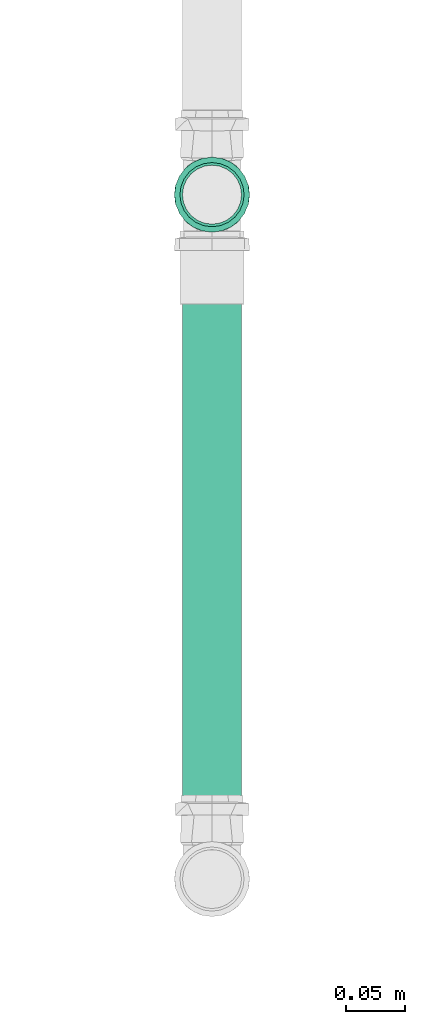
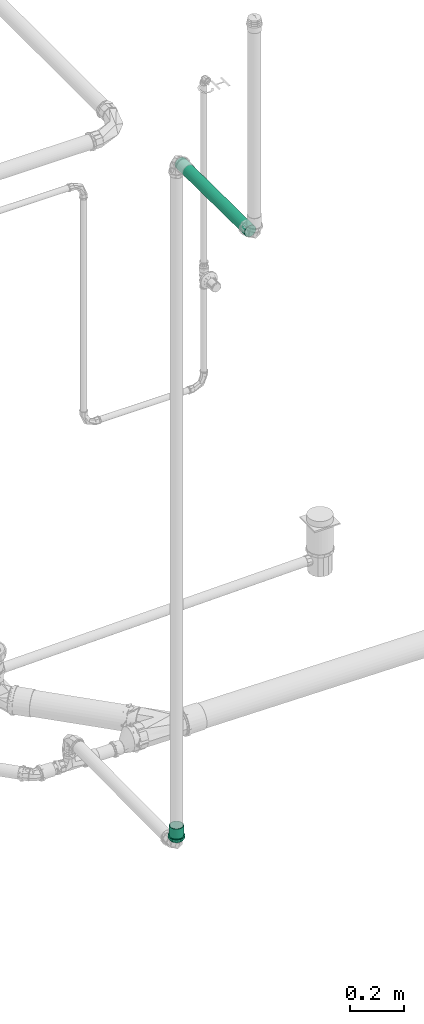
# One storey, part 277 of 589: 1 flow fitting, 1 flow segment.
"""IFC2X3 building model written with IfcOpenShell, lengths in millimetres."""

from ifc_helpers import new_model, entity, si_unit, converted_unit, derived_unit, direction, frame, frame_2d, origin, place, context, subcontext, project, spatial, circle, extrude, faceted_brep, source, transform, mapped, material, type_object, type_shapes, element, save


model = new_model("IFC2X3")

# Units and contexts
model_context = context("Model", 3, precision=0.01, world=origin(), true_north=direction((6.123031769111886e-17, 1.0)))
body_context = subcontext(model_context, "Body", "Model", "MODEL_VIEW")
ifc_project = project(units=[si_unit("LENGTHUNIT", "METRE", prefix="MILLI"), si_unit("AREAUNIT", "SQUARE_METRE"), si_unit("VOLUMEUNIT", "CUBIC_METRE"), converted_unit("PLANEANGLEUNIT", "DEGREE", entity("IfcRatioMeasure", 0.017453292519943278), si_unit("PLANEANGLEUNIT", "RADIAN"), dimensions=[0, 0, 0, 0, 0, 0, 0]), si_unit("MASSUNIT", "GRAM", prefix="KILO"), derived_unit("MASSDENSITYUNIT", [(si_unit("MASSUNIT", "GRAM", prefix="KILO"), 1), (si_unit("LENGTHUNIT", "METRE"), -3)]), derived_unit("IONCONCENTRATIONUNIT", [(si_unit("MASSUNIT", "GRAM", prefix="KILO"), 1), (si_unit("LENGTHUNIT", "METRE"), -3)]), derived_unit("MOMENTOFINERTIAUNIT", [(si_unit("LENGTHUNIT", "METRE"), 4)]), si_unit("TIMEUNIT", "SECOND"), si_unit("FREQUENCYUNIT", "HERTZ"), si_unit("THERMODYNAMICTEMPERATUREUNIT", "DEGREE_CELSIUS"), derived_unit("THERMALTRANSMITTANCEUNIT", [(si_unit("MASSUNIT", "GRAM", prefix="KILO"), 1), (si_unit("THERMODYNAMICTEMPERATUREUNIT", "KELVIN"), -1), (si_unit("TIMEUNIT", "SECOND"), -3)]), derived_unit("THERMALCONDUCTANCEUNIT", [(si_unit("MASSUNIT", "GRAM", prefix="KILO"), 1), (si_unit("THERMODYNAMICTEMPERATUREUNIT", "KELVIN"), -1), (si_unit("TIMEUNIT", "SECOND"), -3), (si_unit("LENGTHUNIT", "METRE"), 1)]), derived_unit("VOLUMETRICFLOWRATEUNIT", [(si_unit("LENGTHUNIT", "METRE"), 3), (si_unit("TIMEUNIT", "SECOND"), -1)]), derived_unit("MASSFLOWRATEUNIT", [(si_unit("MASSUNIT", "GRAM", prefix="KILO"), 1), (si_unit("TIMEUNIT", "SECOND"), -1)]), derived_unit("ROTATIONALFREQUENCYUNIT", [(si_unit("TIMEUNIT", "SECOND"), -1)]), si_unit("ELECTRICCURRENTUNIT", "AMPERE"), si_unit("ELECTRICVOLTAGEUNIT", "VOLT"), si_unit("POWERUNIT", "WATT"), si_unit("FORCEUNIT", "NEWTON", prefix="KILO"), si_unit("ILLUMINANCEUNIT", "LUX"), si_unit("LUMINOUSFLUXUNIT", "LUMEN"), si_unit("LUMINOUSINTENSITYUNIT", "CANDELA"), derived_unit("USERDEFINED", [(si_unit("MASSUNIT", "GRAM", prefix="KILO"), -1), (si_unit("LENGTHUNIT", "METRE"), -2), (si_unit("TIMEUNIT", "SECOND"), 3), (si_unit("LUMINOUSFLUXUNIT", "LUMEN"), 1)]), derived_unit("USERDEFINED", [(si_unit("MASSUNIT", "GRAM", prefix="KILO"), 1), (si_unit("TIMEUNIT", "SECOND"), -3), (si_unit("LENGTHUNIT", "METRE"), 3), (si_unit("ELECTRICCURRENTUNIT", "AMPERE"), -2)]), derived_unit("SOUNDPOWERUNIT", [(si_unit("MASSUNIT", "GRAM", prefix="KILO"), 1), (si_unit("TIMEUNIT", "SECOND"), -3), (si_unit("LENGTHUNIT", "METRE"), 2)]), derived_unit("SOUNDPRESSUREUNIT", [(si_unit("MASSUNIT", "GRAM", prefix="KILO"), 1), (si_unit("LENGTHUNIT", "METRE"), -1), (si_unit("TIMEUNIT", "SECOND"), -2)]), derived_unit("LINEARVELOCITYUNIT", [(si_unit("LENGTHUNIT", "METRE"), 1), (si_unit("TIMEUNIT", "SECOND"), -1)]), si_unit("PRESSUREUNIT", "PASCAL"), derived_unit("USERDEFINED", [(si_unit("MASSUNIT", "GRAM", prefix="KILO"), 1), (si_unit("LENGTHUNIT", "METRE"), -2), (si_unit("TIMEUNIT", "SECOND"), -2)]), derived_unit("LINEARFORCEUNIT", [(si_unit("MASSUNIT", "GRAM", prefix="KILO"), 1), (si_unit("TIMEUNIT", "SECOND"), -2)]), derived_unit("PLANARFORCEUNIT", [(si_unit("MASSUNIT", "GRAM", prefix="KILO"), 1), (si_unit("LENGTHUNIT", "METRE"), -1), (si_unit("TIMEUNIT", "SECOND"), -2)]), derived_unit("SPECIFICHEATCAPACITYUNIT", [(si_unit("THERMODYNAMICTEMPERATUREUNIT", "KELVIN"), -1), (si_unit("LENGTHUNIT", "METRE"), 2), (si_unit("TIMEUNIT", "SECOND"), -2)]), derived_unit("HEATINGVALUEUNIT", [(si_unit("LENGTHUNIT", "METRE"), 2), (si_unit("TIMEUNIT", "SECOND"), -2)]), derived_unit("VAPORPERMEABILITYUNIT", [(si_unit("LENGTHUNIT", "METRE"), -1), (si_unit("TIMEUNIT", "SECOND"), 1)]), derived_unit("DYNAMICVISCOSITYUNIT", [(si_unit("MASSUNIT", "GRAM", prefix="KILO"), 1), (si_unit("TIMEUNIT", "SECOND"), -1), (si_unit("LENGTHUNIT", "METRE"), -1)]), derived_unit("THERMALEXPANSIONCOEFFICIENTUNIT", [(si_unit("THERMODYNAMICTEMPERATUREUNIT", "KELVIN"), -1)]), derived_unit("MODULUSOFELASTICITYUNIT", [(si_unit("MASSUNIT", "GRAM", prefix="KILO"), 1), (si_unit("LENGTHUNIT", "METRE"), -1), (si_unit("TIMEUNIT", "SECOND"), -2)]), derived_unit("ISOTHERMALMOISTURECAPACITYUNIT", [(si_unit("LENGTHUNIT", "METRE"), 3), (si_unit("MASSUNIT", "GRAM", prefix="KILO"), -1)]), derived_unit("MOISTUREDIFFUSIVITYUNIT", [(si_unit("TIMEUNIT", "SECOND"), -1), (si_unit("LENGTHUNIT", "METRE"), 2)])], contexts=[model_context])

# Site, building, storey
site_placement = place(None, origin())
site = spatial("IfcSite", under=ifc_project, at=site_placement, Name="Default", CompositionType="ELEMENT")
building_placement = place(site_placement, origin())
building = spatial("IfcBuilding", under=site, at=building_placement, CompositionType="ELEMENT")
storey_placement = place(building_placement, frame((0.0, 0.0, 100.0)))
storey = spatial("IfcBuildingStorey", under=building, at=storey_placement, Name="TÉRREO", CompositionType="ELEMENT", Elevation=100.0)

# Flow segment
pipe_segment_type = type_object("IfcPipeSegmentType", Name="Tipos de tubos:PVC Esgoto Série Normal", PredefinedType="NOTDEFINED")
flow_segment_placement = place(storey_placement, origin())
element("IfcFlowSegment", 1, at=flow_segment_placement, inside=storey, type_object=pipe_segment_type, Name="Tipos de tubos:PVC Esgoto Série Normal", ObjectType="Tipos de tubos:PVC Esgoto Série Normal", context=body_context, shape_type="SweptSolid", body=[
    extrude(circle(Radius=25.0, at=frame_2d((0.0, 1.0828129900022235e-14), x_axis=(1.0, 0.0))), frame((6108.335906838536, 5868.367382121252, 2992.3093975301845), z_axis=(0.0, -0.9999500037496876, 0.00999950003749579), x_axis=(-1.0, 0.0, 0.0)), (0.0, 0.0, 1.0), 518.1463993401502),
])

# Flow fitting
ifc_material = material(Name="PVC Série Normal")
pipe_fitting_type = type_object("IfcPipeFittingType", Name="PVC Esgoto_Luva Simples para Conexão_Rodrigo MEP:Standard", PredefinedType="NOTDEFINED", material=ifc_material)
shared_shape = source(origin(), body_context, "Body", "Brep", [
    faceted_brep([(16.599999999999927, 15.900000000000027, -27.53960784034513), (16.599999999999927, 22.485995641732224, -22.485995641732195), (16.599999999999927, 13.599999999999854, -23.555890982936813), (16.599999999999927, 7.039878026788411, -26.273182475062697), (16.599999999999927, 8.2304456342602, -30.71644127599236), (16.599999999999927, 19.233304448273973, -19.233304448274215), (16.599999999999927, 27.539607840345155, -15.899999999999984), (16.599999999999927, 23.55589098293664, -13.600000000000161), (16.599999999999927, 26.273182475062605, -7.03987802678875), (16.599999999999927, 30.716441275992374, -8.230445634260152), (16.599999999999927, 27.2, 0.0), (16.599999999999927, 31.8, 0.0), (16.599999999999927, 26.273182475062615, 7.0398780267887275), (16.599999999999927, 30.71644127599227, 8.23044563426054), (16.599999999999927, 23.555890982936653, 13.60000000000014), (16.599999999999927, 27.539607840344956, 15.900000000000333), (16.599999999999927, 19.233304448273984, 19.2333044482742), (16.599999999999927, 22.485995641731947, 22.48599564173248), (16.599999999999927, 13.599999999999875, 23.555890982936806), (16.599999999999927, 15.899999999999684, 27.53960784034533), (16.599999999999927, 7.039878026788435, 26.27318247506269), (16.599999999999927, 8.230445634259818, 30.716441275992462), (16.599999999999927, 0.0, 27.2), (16.599999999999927, 0.0, 31.8), (16.599999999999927, -7.039878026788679, 26.273182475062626), (16.599999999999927, -8.230445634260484, 30.716441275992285), (16.599999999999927, -13.600000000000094, 23.555890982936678), (16.599999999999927, -15.900000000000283, 27.53960784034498), (16.599999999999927, -19.23330444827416, 19.233304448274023), (16.599999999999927, -22.485995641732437, 22.48599564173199), (16.599999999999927, -23.55589098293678, 13.59999999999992), (16.599999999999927, -27.539607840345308, 15.899999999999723), (16.599999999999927, -30.71644127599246, 8.230445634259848), (16.599999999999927, -26.273182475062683, 7.039878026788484), (16.599999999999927, -31.8, 0.0), (16.599999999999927, -27.2, 0.0), (16.599999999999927, -30.71644127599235, -8.23044563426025), (16.599999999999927, -26.273182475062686, -7.03987802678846), (16.599999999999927, -27.53960784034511, -15.90000000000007), (16.599999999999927, -23.55589098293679, -13.599999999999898), (16.599999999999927, -22.485995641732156, -22.485995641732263), (16.599999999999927, -19.233304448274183, -19.233304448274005), (16.599999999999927, -15.899999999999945, -27.53960784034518), (16.599999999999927, -13.600000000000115, -23.555890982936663), (16.599999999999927, -8.230445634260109, -30.716441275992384), (16.599999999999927, -7.039878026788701, -26.273182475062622), (16.599999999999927, 0.0, -31.8), (16.599999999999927, 0.0, -27.2), (6.500000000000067, -10.708108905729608, 29.429219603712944), (6.500000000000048, -24.359073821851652, 20.44200387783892), (6.500000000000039, -27.120498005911, 15.6595386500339), (6.50000000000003, -29.881922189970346, 10.877073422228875), (6.500000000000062, -15.89769721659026, 27.540937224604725), (6.500000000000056, -20.128385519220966, 23.991470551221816), (6.50000000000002, -30.840961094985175, 5.438536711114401), (6.5000000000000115, -31.8, 0.0), (6.50000000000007, -5.518520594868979, 31.317501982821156), (6.500000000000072, 5.526376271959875, 31.316116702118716), (6.50000000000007, 0.00392783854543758, 31.316809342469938), (6.500000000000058, 20.134403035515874, 23.986420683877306), (6.500000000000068, 10.715490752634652, 29.42653259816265), (6.500000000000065, 15.904605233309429, 27.536948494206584), (6.500000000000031, 29.8846497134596, 10.869577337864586), (6.500000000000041, 27.12442527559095, 15.652735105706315), (6.5000000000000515, 24.364200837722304, 20.435892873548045), (6.5000000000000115, 31.8, 0.0), (6.499999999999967, 24.364200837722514, -20.435892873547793), (6.499999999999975, 27.12442527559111, -15.652735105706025), (6.499999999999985, 29.884649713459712, -10.869577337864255), (6.4999999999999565, 15.904605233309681, -27.53694849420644), (6.499999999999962, 20.134403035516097, -23.986420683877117), (6.499999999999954, 10.715490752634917, -29.42653259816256), (6.499999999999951, 5.526376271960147, -31.31611670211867), (6.499999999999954, -5.518520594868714, -31.317501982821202), (6.499999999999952, 0.003927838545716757, -31.316809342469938), (6.499999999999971, -20.128385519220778, -23.99147055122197), (6.499999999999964, -15.897697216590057, -27.54093722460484), (6.499999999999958, -10.70810890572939, -29.42921960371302), (6.499999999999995, -29.881922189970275, -10.877073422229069), (6.499999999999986, -27.12049800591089, -15.659538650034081), (6.499999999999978, -24.359073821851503, -20.442003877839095), (6.500000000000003, -30.840961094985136, -5.438536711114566), (6.499999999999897, -30.696173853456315, -6.259599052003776), (62.0, 13.600000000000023, -23.55589098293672), (62.0, 19.233304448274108, -19.23330444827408), (62.0, 12.499999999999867, -21.650635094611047), (62.0, 6.470476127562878, -24.14814565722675), (62.0, 7.039878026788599, -26.273182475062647), (62.0, 17.677669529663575, -17.677669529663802), (62.0, 23.55589098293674, -13.599999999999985), (62.0, 21.65063509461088, -12.50000000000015), (62.0, 24.148145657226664, -6.470476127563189), (62.0, 26.27318247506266, -7.039878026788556), (62.0, 25.0, 0.0), (62.0, 27.2, 0.0), (62.0, 24.148145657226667, 6.4704761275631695), (62.0, 26.273182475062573, 7.03987802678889), (62.0, 21.650635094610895, 12.500000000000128), (62.0, 23.555890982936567, 13.600000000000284), (62.0, 17.67766952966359, 17.67766952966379), (62.0, 19.233304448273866, 19.233304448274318), (62.0, 12.499999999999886, 21.650635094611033), (62.0, 13.59999999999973, 23.55589098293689), (62.0, 6.4704761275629, 24.14814565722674), (62.0, 7.039878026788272, 26.273182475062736), (62.0, 0.0, 25.0), (62.0, 0.0, 27.2), (62.0, -6.470476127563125, 24.148145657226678), (62.0, -7.039878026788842, 26.273182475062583), (62.0, -12.500000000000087, 21.650635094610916), (62.0, -13.600000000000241, 23.555890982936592), (62.0, -17.677669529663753, 17.677669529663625), (62.0, -19.233304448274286, 19.2333044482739), (62.0, -21.65063509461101, 12.499999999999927), (62.0, -23.555890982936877, 13.599999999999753), (62.0, -26.27318247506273, 7.039878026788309), (62.0, -24.14814565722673, 6.470476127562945), (62.0, -27.2, 0.0), (62.0, -25.0, 0.0), (62.0, -26.27318247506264, -7.0398780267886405), (62.0, -24.148145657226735, -6.470476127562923), (62.0, -23.5558909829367, -13.600000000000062), (62.0, -21.650635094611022, -12.499999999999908), (62.0, -19.233304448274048, -19.233304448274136), (62.0, -17.67766952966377, -17.677669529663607), (62.0, -13.599999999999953, -23.555890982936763), (62.0, -12.500000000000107, -21.650635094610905), (62.0, -7.039878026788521, -26.27318247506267), (62.0, -6.470476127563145, -24.148145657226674), (62.0, 0.0, -27.2), (62.0, 0.0, -25.0), (0.0, 12.499999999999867, -21.650635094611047), (0.0, 19.233304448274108, -19.23330444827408), (0.0, 13.600000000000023, -23.55589098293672), (0.0, 6.470476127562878, -24.14814565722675), (0.0, 17.677669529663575, -17.677669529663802), (0.0, 23.55589098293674, -13.599999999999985), (0.0, 21.65063509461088, -12.50000000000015), (0.0, 24.148145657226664, -6.470476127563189), (0.0, 26.27318247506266, -7.039878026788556), (0.0, 25.0, 0.0), (0.0, 27.2, 0.0), (0.0, 24.148145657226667, 6.4704761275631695), (0.0, 26.273182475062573, 7.03987802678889), (0.0, 21.650635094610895, 12.500000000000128), (0.0, 23.555890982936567, 13.600000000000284), (0.0, 17.67766952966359, 17.67766952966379), (0.0, 19.233304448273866, 19.233304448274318), (0.0, 12.499999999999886, 21.650635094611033), (0.0, 13.59999999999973, 23.55589098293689), (0.0, 6.4704761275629, 24.14814565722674), (0.0, 7.039878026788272, 26.273182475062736), (0.0, 0.0, 25.0), (0.0, 0.0, 27.2), (0.0, -6.470476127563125, 24.148145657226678), (0.0, -7.039878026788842, 26.273182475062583), (0.0, -12.500000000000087, 21.650635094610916), (0.0, -13.600000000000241, 23.555890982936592), (0.0, -17.677669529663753, 17.677669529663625), (0.0, -19.233304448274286, 19.2333044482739), (0.0, -21.65063509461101, 12.499999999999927), (0.0, -23.555890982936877, 13.599999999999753), (0.0, -26.27318247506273, 7.039878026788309), (0.0, -24.14814565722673, 6.470476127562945), (0.0, -27.2, 0.0), (0.0, -25.0, 0.0), (0.0, -26.27318247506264, -7.0398780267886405), (0.0, -24.148145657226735, -6.470476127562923), (0.0, -23.5558909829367, -13.600000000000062), (0.0, -21.650635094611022, -12.499999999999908), (0.0, -19.233304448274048, -19.233304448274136), (0.0, -17.67766952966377, -17.677669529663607), (0.0, -13.599999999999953, -23.555890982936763), (0.0, -12.500000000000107, -21.650635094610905), (0.0, -7.039878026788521, -26.27318247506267), (0.0, -6.470476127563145, -24.148145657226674), (0.0, 0.0, -27.2), (0.0, 0.0, -25.0), (0.0, 7.039878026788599, -26.273182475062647), (5.300000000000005, -26.37968999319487, 4.651830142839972), (5.299999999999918, -26.25584678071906, 5.354122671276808), (5.300000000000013, -25.559379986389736, 9.303660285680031), (5.300000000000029, -20.835434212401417, 17.48498444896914), (5.300000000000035, -17.216732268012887, 20.521006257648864), (5.300000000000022, -23.19740709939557, 13.394322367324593), (5.3000000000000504, -4.720244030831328, 26.787297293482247), (5.300000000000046, -9.15913717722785, 25.172162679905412), (5.299999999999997, -27.2, 0.0), (5.300000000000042, -13.598030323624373, 23.557028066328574), (5.300000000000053, 9.165451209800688, 25.169864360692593), (5.300000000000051, 13.603939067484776, 23.55361632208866), (5.300000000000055, 4.7269633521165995, 26.786112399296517), (5.300000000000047, 17.221879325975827, 20.516686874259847), (5.300000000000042, 20.839819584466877, 17.479757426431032), (5.3000000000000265, 25.56171296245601, 9.297248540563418), (5.299999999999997, 27.2, 0.0), (5.3000000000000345, 23.20076627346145, 13.388502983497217), (5.300000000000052, 0.003359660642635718, 26.786704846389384), (5.299999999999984, 25.56171296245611, -9.29724854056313), (5.299999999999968, 20.839819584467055, -17.47975742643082), (5.2999999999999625, 17.22187932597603, -20.516686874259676), (5.299999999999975, 23.200766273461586, -13.388502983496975), (5.299999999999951, 4.726963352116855, -26.78611239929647), (5.2999999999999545, 9.165451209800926, -25.169864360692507), (5.299999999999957, 13.603939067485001, -23.553616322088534), (5.29999999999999, -26.379689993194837, -4.651830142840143), (5.299999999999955, -9.159137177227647, -25.17216267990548), (5.299999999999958, -13.5980303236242, -23.55702806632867), (5.299999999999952, -4.720244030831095, -26.787297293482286), (5.299999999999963, -17.216732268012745, -20.52100625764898), (5.299999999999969, -20.83543421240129, -17.484984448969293), (5.299999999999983, -25.559379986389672, -9.303660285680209), (5.299999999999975, -23.197407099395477, -13.394322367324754), (5.299999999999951, 0.003359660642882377, -26.78670484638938), (39.0, -25.0, 0.0), (39.0, 25.0, 0.0)], [[[0, 1, 2]], [[0, 2, 3]], [[3, 4, 0]], [[2, 1, 5]], [[6, 5, 1]], [[7, 5, 6]], [[8, 7, 6]], [[8, 6, 9]], [[8, 9, 10]], [[10, 9, 11]], [[12, 10, 11]], [[12, 11, 13]], [[14, 12, 13]], [[14, 13, 15]], [[16, 14, 15]], [[15, 17, 16]], [[17, 18, 16]], [[17, 19, 18]], [[18, 19, 20]], [[21, 20, 19]], [[20, 21, 22]], [[22, 21, 23]], [[22, 23, 24]], [[24, 23, 25]], [[24, 25, 26]], [[27, 26, 25]], [[27, 28, 26]], [[28, 27, 29]], [[30, 28, 29]], [[31, 30, 29]], [[32, 30, 31]], [[33, 30, 32]], [[33, 32, 34]], [[35, 33, 34]], [[36, 35, 34]], [[36, 37, 35]], [[37, 36, 38]], [[39, 37, 38]], [[39, 38, 40]], [[39, 40, 41]], [[40, 42, 41]], [[41, 42, 43]], [[43, 42, 44]], [[44, 45, 43]], [[46, 45, 44]], [[4, 47, 46]], [[46, 47, 45]], [[4, 3, 47]], [[48, 27, 25]], [[31, 29, 49]], [[31, 49, 50, 51]], [[52, 53, 27]], [[32, 51, 54]], [[54, 55, 34]], [[54, 34, 32]], [[25, 56, 48]], [[49, 29, 53]], [[23, 57, 58, 56]], [[59, 19, 17]], [[27, 53, 29]], [[48, 52, 27]], [[31, 51, 32]], [[57, 23, 21]], [[60, 19, 61]], [[15, 62, 63, 64]], [[19, 60, 21]], [[15, 13, 62]], [[17, 64, 59]], [[57, 21, 60]], [[23, 56, 25]], [[15, 64, 17]], [[13, 65, 62]], [[13, 11, 65]], [[59, 61, 19]], [[65, 11, 9]], [[6, 1, 66]], [[6, 66, 67, 68]], [[69, 70, 0]], [[68, 65, 9]], [[71, 69, 0]], [[71, 0, 4]], [[4, 72, 71]], [[66, 1, 70]], [[46, 73, 74, 72]], [[75, 76, 42]], [[0, 70, 1]], [[75, 42, 40]], [[6, 68, 9]], [[73, 46, 44]], [[77, 42, 76]], [[38, 78, 79, 80]], [[42, 77, 44]], [[38, 36, 78]], [[40, 80, 75]], [[73, 44, 77]], [[46, 72, 4]], [[38, 80, 40]], [[36, 81, 82, 78]], [[55, 81, 34]], [[34, 81, 36]], [[83, 84, 85]], [[83, 85, 86]], [[86, 87, 83]], [[85, 84, 88]], [[89, 88, 84]], [[88, 89, 90]], [[90, 89, 91]], [[92, 91, 89]], [[92, 93, 91]], [[93, 92, 94]], [[95, 93, 94]], [[94, 96, 95]], [[95, 96, 97]], [[98, 97, 96]], [[97, 98, 99]], [[99, 98, 100]], [[101, 99, 100]], [[100, 102, 101]], [[101, 102, 103]], [[104, 103, 102]], [[103, 104, 105]], [[105, 104, 106]], [[105, 106, 107]], [[107, 106, 108]], [[107, 108, 109]], [[110, 109, 108]], [[110, 111, 109]], [[111, 110, 112]], [[112, 113, 111]], [[114, 113, 112]], [[113, 114, 115]], [[115, 116, 113]], [[117, 116, 115]], [[117, 118, 116]], [[119, 118, 117]], [[119, 120, 118]], [[120, 119, 121]], [[121, 122, 120]], [[122, 121, 123]], [[122, 123, 124]], [[123, 125, 124]], [[124, 125, 126]], [[126, 125, 127]], [[127, 128, 126]], [[129, 128, 127]], [[87, 130, 129]], [[129, 130, 128]], [[87, 86, 130]], [[131, 132, 133]], [[134, 131, 133]], [[135, 132, 131]], [[132, 135, 136]], [[137, 136, 135]], [[138, 136, 137]], [[136, 138, 139]], [[138, 140, 139]], [[141, 139, 140]], [[141, 140, 142]], [[142, 143, 141]], [[144, 143, 142]], [[143, 144, 145]], [[146, 145, 144]], [[147, 145, 146]], [[147, 146, 148]], [[148, 149, 147]], [[150, 149, 148]], [[149, 150, 151]], [[152, 151, 150]], [[153, 151, 152]], [[154, 153, 152]], [[155, 153, 154]], [[156, 155, 154]], [[155, 156, 157]], [[156, 158, 157]], [[159, 157, 158]], [[158, 160, 159]], [[159, 160, 161]], [[162, 161, 160]], [[160, 163, 162]], [[162, 163, 164]], [[163, 165, 164]], [[164, 165, 166]], [[165, 167, 166]], [[168, 166, 167]], [[167, 169, 168]], [[170, 168, 169]], [[171, 170, 169]], [[171, 172, 170]], [[173, 172, 171]], [[174, 172, 173]], [[173, 175, 174]], [[174, 175, 176]], [[175, 177, 176]], [[177, 134, 178]], [[176, 177, 178]], [[133, 178, 134]], [[162, 179, 180, 181]], [[159, 182, 183]], [[182, 161, 181, 184]], [[185, 155, 186]], [[161, 162, 181]], [[187, 179, 164]], [[183, 188, 157]], [[183, 157, 159]], [[161, 182, 159]], [[189, 190, 149]], [[189, 149, 151]], [[157, 188, 186]], [[157, 186, 155]], [[153, 155, 185]], [[164, 179, 162]], [[151, 191, 189]], [[147, 192, 193]], [[143, 194, 195]], [[194, 145, 193, 196]], [[143, 195, 141]], [[10, 12, 96, 94]], [[149, 192, 147]], [[153, 185, 197, 191]], [[153, 191, 151]], [[145, 147, 193]], [[190, 192, 149]], [[145, 194, 143]], [[139, 195, 198]], [[132, 199, 200]], [[199, 136, 198, 201]], [[202, 178, 203]], [[136, 139, 198]], [[139, 141, 195]], [[92, 8, 10, 94]], [[133, 203, 178]], [[200, 204, 133]], [[136, 199, 132]], [[205, 164, 166]], [[206, 207, 172]], [[133, 204, 203]], [[206, 172, 174]], [[176, 178, 202]], [[200, 133, 132]], [[174, 208, 206]], [[170, 209, 210]], [[166, 211, 205]], [[211, 168, 210, 212]], [[168, 211, 166]], [[172, 209, 170]], [[176, 202, 213, 208]], [[176, 208, 174]], [[168, 170, 210]], [[207, 209, 172]], [[205, 187, 164]], [[116, 118, 214, 165, 163]], [[156, 109, 111, 158]], [[111, 113, 160, 158]], [[113, 116, 163, 160]], [[107, 109, 156, 154]], [[154, 152, 105, 107]], [[103, 105, 152, 150]], [[103, 150, 148, 101]], [[142, 95, 97, 144]], [[97, 99, 146, 144]], [[99, 101, 148, 146]], [[93, 95, 142, 140, 215]], [[215, 140, 138, 91, 93]], [[135, 131, 85, 88]], [[90, 91, 138, 137]], [[90, 137, 135, 88]], [[86, 85, 131, 134]], [[134, 177, 130, 86]], [[128, 130, 177, 175]], [[128, 175, 173, 126]], [[167, 120, 122, 169]], [[122, 124, 171, 169]], [[124, 126, 173, 171]], [[118, 120, 167, 165, 214]], [[211, 78, 82, 81, 55, 187, 205]], [[79, 78, 211, 212, 210, 80]], [[75, 80, 210, 209, 207, 76]], [[207, 206, 208, 73, 77, 76]], [[213, 202, 72, 74, 73, 208]], [[203, 204, 69, 71, 72, 202]], [[198, 195, 65, 68]], [[199, 201, 198, 68, 67, 66]], [[204, 200, 199, 66, 70, 69]], [[195, 194, 62, 65]], [[197, 185, 56, 58, 57, 191]], [[63, 62, 194, 196, 193, 64]], [[57, 60, 61, 190, 189, 191]], [[193, 192, 190, 61, 59, 64]], [[48, 56, 185, 186, 188, 52]], [[187, 55, 54, 51, 181, 180, 179]], [[182, 184, 181, 51, 50, 49]], [[188, 183, 182, 49, 53, 52]], [[30, 33, 115, 114]], [[117, 115, 33, 35]], [[26, 28, 112, 110]], [[114, 112, 28, 30]], [[24, 26, 110, 108]], [[108, 106, 22, 24]], [[18, 20, 104, 102]], [[100, 16, 18, 102]], [[12, 14, 98, 96]], [[100, 98, 14, 16]], [[104, 20, 22, 106]], [[89, 7, 8, 92]], [[83, 87, 3, 2]], [[7, 89, 84, 5]], [[83, 2, 5, 84]], [[87, 129, 47, 3]], [[43, 45, 127, 125]], [[123, 41, 43, 125]], [[37, 39, 121, 119]], [[123, 121, 39, 41]], [[35, 37, 119, 117]], [[127, 45, 47, 129]]]),
])
type_shapes(pipe_fitting_type, [shared_shape])
flow_fitting_placement = place(storey_placement, frame((6108.335906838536, 5899.307135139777, -96.53870003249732), z_axis=(-1.0, 0.0, 0.0), x_axis=(0.0, 0.0, 1.0)))
element("IfcFlowFitting", 2, at=flow_fitting_placement, inside=storey, type_object=pipe_fitting_type, material=ifc_material, Name="PVC Esgoto_Luva Simples para Conexão_Rodrigo MEP:Standard", ObjectType="PVC Esgoto_Luva Simples para Conexão_Rodrigo MEP:Standard", context=body_context, shape_type="MappedRepresentation", body=[
    mapped(shared_shape, transform((0.0, 0.0, 0.0), scale=1.0)),
])

save(model, "model.ifc")
